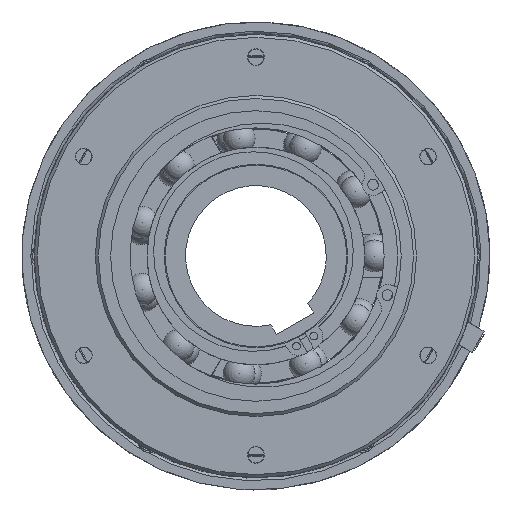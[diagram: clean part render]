
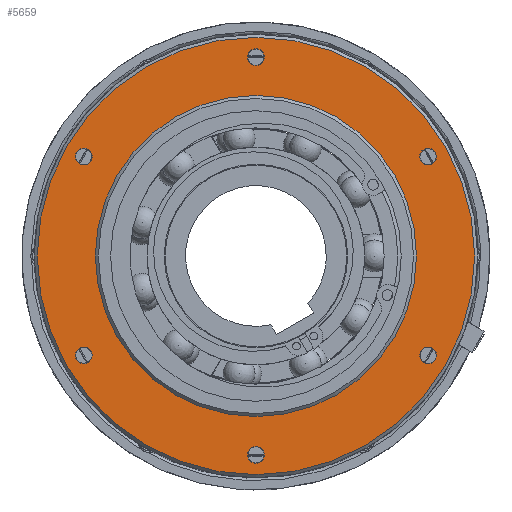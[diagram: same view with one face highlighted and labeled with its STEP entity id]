
A CAD part, left-side view. The second image highlights one B-rep face of the part: STEP entity #5659.
In plain terms, the highlighted planar face has unit normal (-1, 0, 0).
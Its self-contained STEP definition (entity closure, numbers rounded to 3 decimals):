
#5336=CARTESIAN_POINT('',(-96.,0.,-71.5));
#5337=VERTEX_POINT('',#5336);
#5338=CARTESIAN_POINT('',(-96.,0.,0.));
#5339=DIRECTION('',(1.0,0.0,0.0));
#5340=DIRECTION('',(0.0,0.0,1.0));
#5341=AXIS2_PLACEMENT_3D('',#5338,#5339,#5340);
#5342=CIRCLE('',#5341,71.5);
#5343=EDGE_CURVE('',#5337,#5337,#5342,.T.);
#5574=CARTESIAN_POINT('',(-96.,0.,-62.5));
#5575=DIRECTION('',(-1.0,0.0,0.0));
#5576=DIRECTION('',(0.0,1.0,0.0));
#5577=AXIS2_PLACEMENT_3D('',#5574,#5575,#5576);
#5578=PLANE('',#5577);
#5579=ORIENTED_EDGE('',*,*,#5343,.F.);
#5580=EDGE_LOOP('',(#5579));
#5581=FACE_OUTER_BOUND('',#5580,.T.);
#5582=CARTESIAN_POINT('',(-96.,0.,-52.5));
#5583=VERTEX_POINT('',#5582);
#5584=CARTESIAN_POINT('',(-96.,0.,0.));
#5585=DIRECTION('',(1.0,0.0,0.0));
#5586=DIRECTION('',(0.0,0.0,-1.0));
#5587=AXIS2_PLACEMENT_3D('',#5584,#5585,#5586);
#5588=CIRCLE('',#5587,52.5);
#5589=EDGE_CURVE('',#5583,#5583,#5588,.T.);
#5590=ORIENTED_EDGE('',*,*,#5589,.T.);
#5591=EDGE_LOOP('',(#5590));
#5592=FACE_BOUND('',#5591,.T.);
#5593=CARTESIAN_POINT('',(-96.,59.021,-32.5));
#5594=VERTEX_POINT('',#5593);
#5595=CARTESIAN_POINT('',(-96.,56.292,-32.5));
#5596=DIRECTION('',(1.0,0.0,0.0));
#5597=DIRECTION('',(0.0,1.0,0.0));
#5598=AXIS2_PLACEMENT_3D('',#5595,#5596,#5597);
#5599=CIRCLE('',#5598,2.73);
#5600=EDGE_CURVE('',#5594,#5594,#5599,.T.);
#5601=ORIENTED_EDGE('',*,*,#5600,.T.);
#5602=EDGE_LOOP('',(#5601));
#5603=FACE_BOUND('',#5602,.T.);
#5604=CARTESIAN_POINT('',(-96.,57.656,34.864));
#5605=VERTEX_POINT('',#5604);
#5606=CARTESIAN_POINT('',(-96.,56.292,32.5));
#5607=DIRECTION('',(1.0,0.,0.));
#5608=DIRECTION('',(0.,0.5,0.866));
#5609=AXIS2_PLACEMENT_3D('',#5606,#5607,#5608);
#5610=CIRCLE('',#5609,2.73);
#5611=EDGE_CURVE('',#5605,#5605,#5610,.T.);
#5612=ORIENTED_EDGE('',*,*,#5611,.T.);
#5613=EDGE_LOOP('',(#5612));
#5614=FACE_BOUND('',#5613,.T.);
#5615=CARTESIAN_POINT('',(-96.,-1.365,67.364));
#5616=VERTEX_POINT('',#5615);
#5617=CARTESIAN_POINT('',(-96.,0.,65.0));
#5618=DIRECTION('',(1.0,0.,0.));
#5619=DIRECTION('',(0.,-0.5,0.866));
#5620=AXIS2_PLACEMENT_3D('',#5617,#5618,#5619);
#5621=CIRCLE('',#5620,2.73);
#5622=EDGE_CURVE('',#5616,#5616,#5621,.T.);
#5623=ORIENTED_EDGE('',*,*,#5622,.T.);
#5624=EDGE_LOOP('',(#5623));
#5625=FACE_BOUND('',#5624,.T.);
#5626=CARTESIAN_POINT('',(-96.,-59.021,32.5));
#5627=VERTEX_POINT('',#5626);
#5628=CARTESIAN_POINT('',(-96.,-56.292,32.5));
#5629=DIRECTION('',(1.0,0.0,0.0));
#5630=DIRECTION('',(0.0,-1.0,0.0));
#5631=AXIS2_PLACEMENT_3D('',#5628,#5629,#5630);
#5632=CIRCLE('',#5631,2.73);
#5633=EDGE_CURVE('',#5627,#5627,#5632,.T.);
#5634=ORIENTED_EDGE('',*,*,#5633,.T.);
#5635=EDGE_LOOP('',(#5634));
#5636=FACE_BOUND('',#5635,.T.);
#5637=CARTESIAN_POINT('',(-96.,-57.656,-34.864));
#5638=VERTEX_POINT('',#5637);
#5639=CARTESIAN_POINT('',(-96.,-56.292,-32.5));
#5640=DIRECTION('',(1.,0.,0.));
#5641=DIRECTION('',(0.,-0.5,-0.866));
#5642=AXIS2_PLACEMENT_3D('',#5639,#5640,#5641);
#5643=CIRCLE('',#5642,2.73);
#5644=EDGE_CURVE('',#5638,#5638,#5643,.T.);
#5645=ORIENTED_EDGE('',*,*,#5644,.T.);
#5646=EDGE_LOOP('',(#5645));
#5647=FACE_BOUND('',#5646,.T.);
#5648=CARTESIAN_POINT('',(-96.,1.365,-67.364));
#5649=VERTEX_POINT('',#5648);
#5650=CARTESIAN_POINT('',(-96.,0.,-65.));
#5651=DIRECTION('',(1.0,0.,0.));
#5652=DIRECTION('',(0.,0.5,-0.866));
#5653=AXIS2_PLACEMENT_3D('',#5650,#5651,#5652);
#5654=CIRCLE('',#5653,2.73);
#5655=EDGE_CURVE('',#5649,#5649,#5654,.T.);
#5656=ORIENTED_EDGE('',*,*,#5655,.T.);
#5657=EDGE_LOOP('',(#5656));
#5658=FACE_BOUND('',#5657,.T.);
#5659=ADVANCED_FACE('',(#5581,#5592,#5603,#5614,#5625,#5636,#5647,#5658),#5578,.T.);
